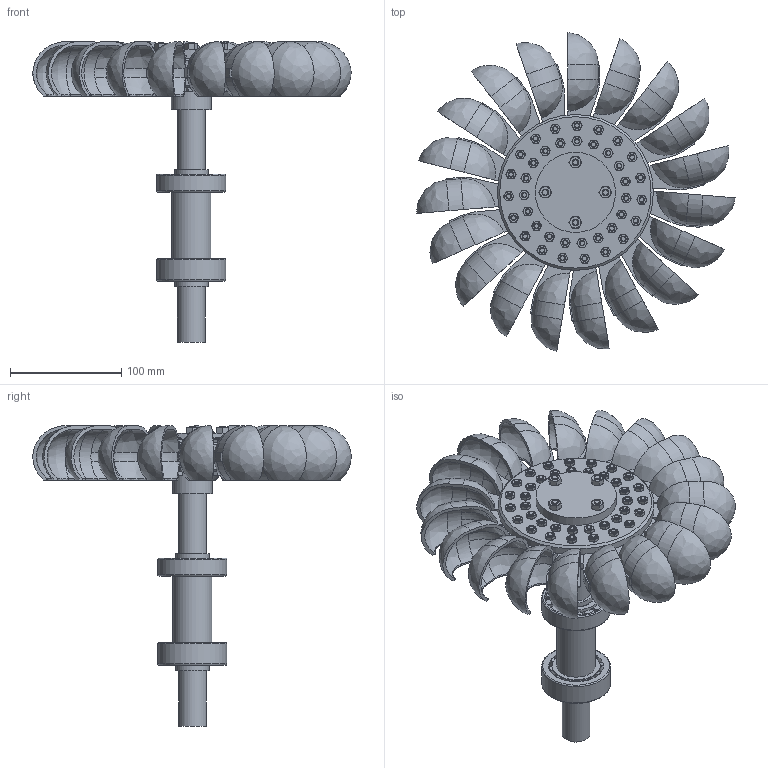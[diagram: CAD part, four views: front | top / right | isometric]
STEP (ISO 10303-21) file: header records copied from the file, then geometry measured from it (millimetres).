
FILE_DESCRIPTION(/* description */ (''),/* implementation_level */ '2;1');
FILE_NAME(/* name */ 'Assieme_turgo.stp',/* time_stamp */ '2025-03-10T18:45:26+01:00',/* author */ ('R5800u'),/* organization */ (''),/* preprocessor_version */ 'ST-DEVELOPER v20',/* originating_system */ 'Autodesk Inventor 2025',/* authorisation */ '');
FILE_SCHEMA (('AUTOMOTIVE_DESIGN { 1 0 10303 214 3 1 1 }'));
Length unit declared in the file: millimetre
Products named in the file (13): Assieme_turgo; Parte2; Parte1; disco; disco_MIR; AS 1111 - M5 x 30; AS 1112 - M5; Connessione a chiavetta; albero; AS 1110 - M6 x 40; AS 1112 - M6  Tipo 5; SKF22206 CCK; JIS B 1533 SKF (A) - SKF N 206 ECP
Assembly tree (110 placements, depth 2):
  Assieme_turgo
    Parte2
    Parte1  x19
    disco
    disco_MIR
    AS 1111 - M5 x 30  x38
    AS 1112 - M5  x38
    Connessione a chiavetta
    albero
    AS 1110 - M6 x 40  x4
    AS 1112 - M6  Tipo 5  x4
    SKF22206 CCK
    JIS B 1533 SKF (A) - SKF N 206 ECP
Bounding box: 285.99 x 286.16 x 270 mm (x, y, z)
Volume: 904543.6 mm3; surface area: 425039.2 mm2
Topology: 110 solids, 110 shells, 2969 faces, 6847 edges, 4063 vertices
Faces by surface type: plane 1249, cone 927, cylinder 532, bspline 230, torus 29, sphere 2
Full cylindrical faces by diameter (mm): 4.134 x38, 4.917 x4, 5 x38, 5.3 x114, 6 x4, 6.4 x12, 8 x38, 10 x4, 25 x4, 30 x3, 35 x1, 36 x1, 41.2 x2, 43.24 x2, 46.774 x1, 62 x2, 72 x1, 140 x2
Entity records: 19784 total; most frequent: CARTESIAN_POINT 5885, DIRECTION 3047, ORIENTED_EDGE 2586, AXIS2_PLACEMENT_3D 1377, EDGE_CURVE 1293, CIRCLE 768, VERTEX_POINT 762, EDGE_LOOP 733
